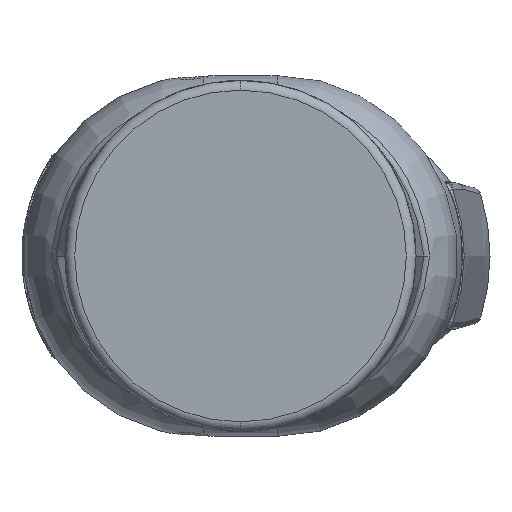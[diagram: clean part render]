
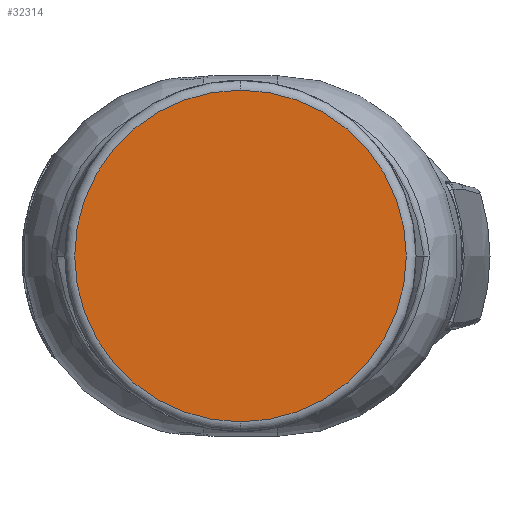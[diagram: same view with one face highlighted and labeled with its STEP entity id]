
A CAD part, left-side view. The second image highlights one B-rep face of the part: STEP entity #32314.
In plain terms, the highlighted planar face has unit normal (-1, 0, 0).
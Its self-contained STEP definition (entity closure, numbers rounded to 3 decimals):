
#507 = ORIENTED_EDGE ( 'NONE', *, *, #40953, .T. ) ;
#933 = VERTEX_POINT ( 'NONE', #34442 ) ;
#3448 = DIRECTION ( 'NONE',  ( 0., 0., -1. ) ) ;
#3674 = CARTESIAN_POINT ( 'NONE',  ( -203., -3.75, 0. ) ) ;
#5079 = ORIENTED_EDGE ( 'NONE', *, *, #12307, .T. ) ;
#7742 = DIRECTION ( 'NONE',  ( -1., 0., 0. ) ) ;
#8440 = CIRCLE ( 'NONE', #26440, 17. ) ;
#12234 = CARTESIAN_POINT ( 'NONE',  ( -203., -3.75, 0. ) ) ;
#12307 = EDGE_CURVE ( 'NONE', #12714, #933, #31739, .T. ) ;
#12685 = AXIS2_PLACEMENT_3D ( 'NONE', #3674, #35545, #3448 ) ;
#12714 = VERTEX_POINT ( 'NONE', #43302 ) ;
#14458 = FACE_OUTER_BOUND ( 'NONE', #38993, .T. ) ;
#24797 = PLANE ( 'NONE',  #12685 ) ;
#26440 = AXIS2_PLACEMENT_3D ( 'NONE', #39871, #7742, #28185 ) ;
#28185 = DIRECTION ( 'NONE',  ( 0., 0., -1. ) ) ;
#31739 = CIRCLE ( 'NONE', #38496, 17. ) ;
#32314 = ADVANCED_FACE ( 'NONE', ( #14458 ), #24797, .F. ) ;
#33782 = DIRECTION ( 'NONE',  ( 0., 0., -1. ) ) ;
#34442 = CARTESIAN_POINT ( 'NONE',  ( -203., -3.75, -17. ) ) ;
#35545 = DIRECTION ( 'NONE',  ( 1., 0., 0. ) ) ;
#38496 = AXIS2_PLACEMENT_3D ( 'NONE', #12234, #40838, #33782 ) ;
#38993 = EDGE_LOOP ( 'NONE', ( #507, #5079 ) ) ;
#39871 = CARTESIAN_POINT ( 'NONE',  ( -203., -3.75, 0. ) ) ;
#40838 = DIRECTION ( 'NONE',  ( -1., 0., 0. ) ) ;
#40953 = EDGE_CURVE ( 'NONE', #933, #12714, #8440, .T. ) ;
#43302 = CARTESIAN_POINT ( 'NONE',  ( -203., -3.75, 17. ) ) ;
